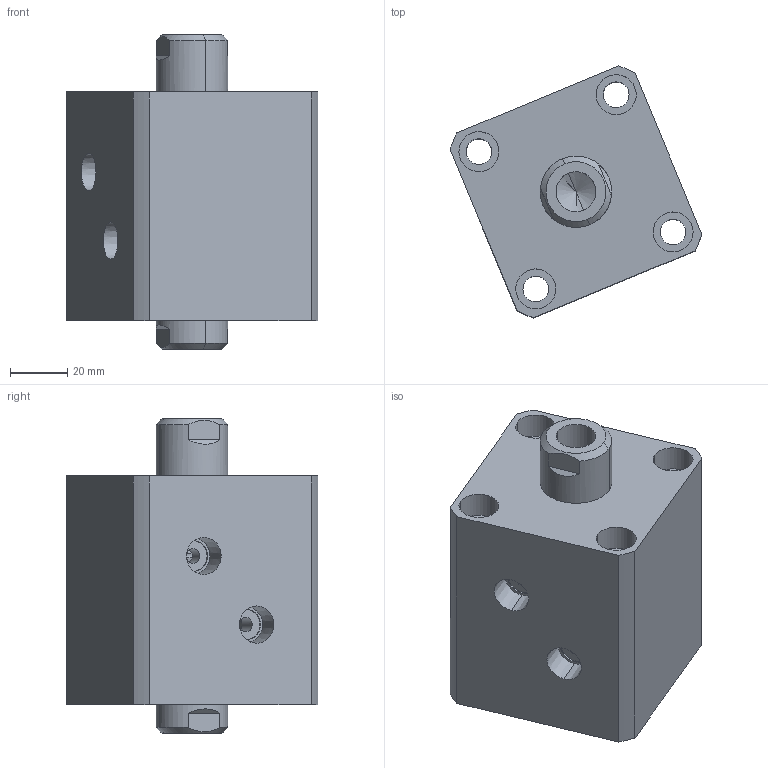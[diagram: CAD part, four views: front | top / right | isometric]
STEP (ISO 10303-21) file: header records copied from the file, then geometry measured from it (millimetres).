
FILE_DESCRIPTION (( 'STEP AP214' ), '1' );
FILE_NAME ('chtb-sw40x10n_asm.STEP', '2018-06-08T11:15:47', ( 'Windows' ), ( 'Microsoft' ), 'SwSTEP 2.0', 'SolidWorks 2015', '' );
FILE_SCHEMA (( 'AUTOMOTIVE_DESIGN' ));
Length unit declared in the file: millimetre
Products named in the file (4): CHTB-SW40X10NHSG; CHTB-SW40X10NBT; CHTB-SD40QG; chtb-sw40x10n_asm
Assembly tree (3 placements, depth 2):
  chtb-sw40x10n_asm
    CHTB-SD40QG
    CHTB-SW40X10NBT
    CHTB-SW40X10NHSG
Bounding box: 88.11 x 88.11 x 110 mm (x, y, z)
Volume: 356509.4 mm3; surface area: 74701.1 mm2
Topology: 3 solids, 3 shells, 167 faces, 429 edges, 282 vertices
Faces by surface type: cylinder 84, plane 40, cone 17, bspline 14, torus 12
Entity records: 10325 total; most frequent: CARTESIAN_POINT 6131, ORIENTED_EDGE 838, DIRECTION 822, EDGE_CURVE 419, AXIS2_PLACEMENT_3D 348, VERTEX_POINT 282, EDGE_LOOP 207, CIRCLE 189
